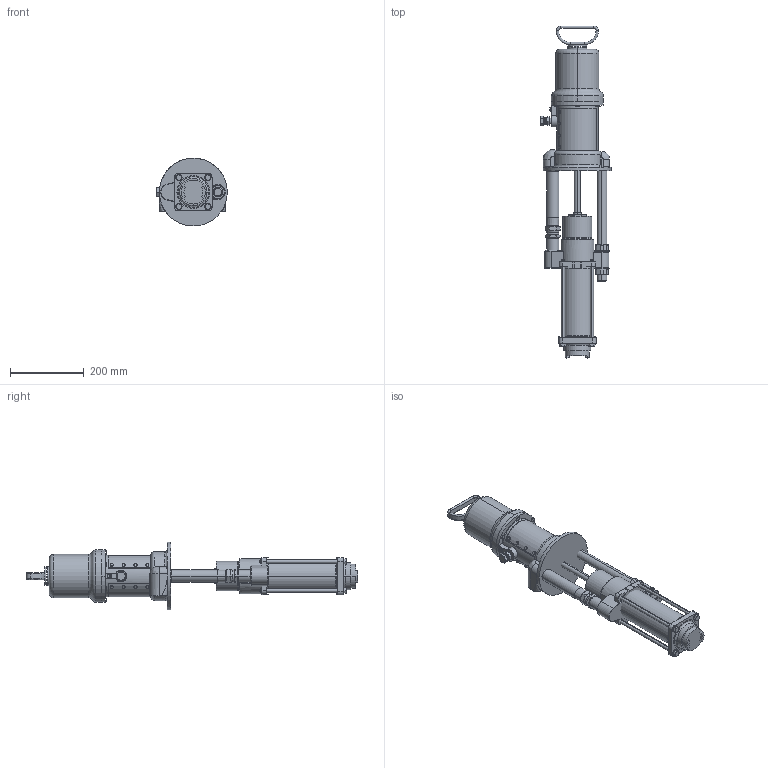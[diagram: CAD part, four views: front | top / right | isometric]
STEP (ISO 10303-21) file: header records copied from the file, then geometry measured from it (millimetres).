
FILE_DESCRIPTION((''),'2;1');
FILE_NAME('223186-EN-M_PRT','2022-02-14T11:18:08',('qtmwp1'),(''),'CREO PARAMETRIC BY PTC INC, 2021072','CREO PARAMETRIC BY PTC INC, 2021072','');
FILE_SCHEMA(('CONFIG_CONTROL_DESIGN'));
Length unit declared in the file: inch
Products named in the file (1): 223186-EN-M_PRT
Bounding box: 191.44 x 900.89 x 183.84 mm (x, y, z)
Surface area: 544096.8 mm2 (no closed solid volume)
Topology: 0 solids, 78 shells, 541 faces, 1501 edges, 1009 vertices
Faces by surface type: plane 222, cylinder 155, cone 127, torus 23, bspline 14
Entity records: 18937 total; most frequent: CARTESIAN_POINT 5798, DIRECTION 2716, ORIENTED_EDGE 2488, EDGE_CURVE 1499, AXIS2_PLACEMENT_3D 1035, VERTEX_POINT 1009, VECTOR 646, LINE 646
